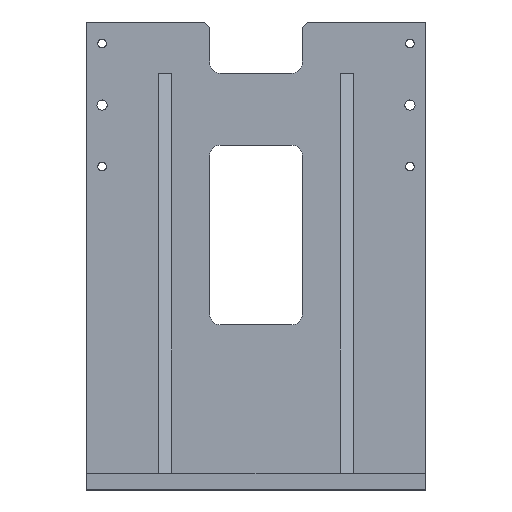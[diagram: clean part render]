
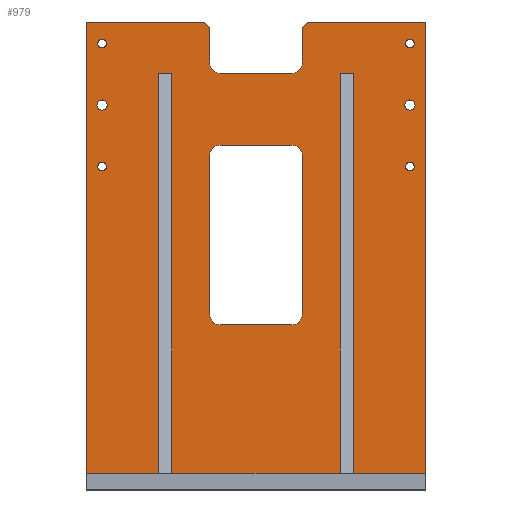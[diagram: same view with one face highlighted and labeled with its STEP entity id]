
A CAD part, top view. The second image highlights one B-rep face of the part: STEP entity #979.
In plain terms, the highlighted planar face has unit normal (0, 0, 1).
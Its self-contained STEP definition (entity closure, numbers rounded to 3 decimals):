
#19=FACE_BOUND($,#149,.T.);
#20=FACE_BOUND($,#150,.T.);
#21=FACE_BOUND($,#151,.T.);
#22=FACE_BOUND($,#152,.T.);
#23=FACE_BOUND($,#153,.T.);
#24=FACE_BOUND($,#154,.T.);
#25=FACE_BOUND($,#155,.T.);
#26=FACE_BOUND($,#156,.T.);
#65=PLANE($,#1047);
#149=EDGE_LOOP($,(#739,#740,#741,#742,#743,#744,#745,#746));
#150=EDGE_LOOP($,(#747,#748,#749,#750,#751,#752,#753,#754,#755,#756,#757,
#758,#759,#760,#761,#762,#763,#764,#765,#766));
#151=EDGE_LOOP($,(#767));
#152=EDGE_LOOP($,(#768));
#153=EDGE_LOOP($,(#769));
#154=EDGE_LOOP($,(#770));
#155=EDGE_LOOP($,(#771));
#156=EDGE_LOOP($,(#772));
#215=LINE($,#1371,#305);
#218=LINE($,#1382,#308);
#223=LINE($,#1395,#313);
#225=LINE($,#1403,#315);
#244=LINE($,#1458,#334);
#248=LINE($,#1464,#338);
#250=LINE($,#1469,#340);
#252=LINE($,#1473,#342);
#256=LINE($,#1484,#346);
#257=LINE($,#1487,#347);
#258=LINE($,#1489,#348);
#259=LINE($,#1491,#349);
#260=LINE($,#1493,#350);
#261=LINE($,#1495,#351);
#262=LINE($,#1497,#352);
#263=LINE($,#1499,#353);
#264=LINE($,#1501,#354);
#265=LINE($,#1503,#355);
#266=LINE($,#1505,#356);
#267=LINE($,#1507,#357);
#268=LINE($,#1509,#358);
#269=LINE($,#1510,#359);
#305=VECTOR($,#1110,155.);
#308=VECTOR($,#1121,70.);
#313=VECTOR($,#1134,70.);
#315=VECTOR($,#1144,155.);
#334=VECTOR($,#1187,7.071);
#338=VECTOR($,#1193,35.);
#340=VECTOR($,#1197,7.071);
#342=VECTOR($,#1201,35.);
#346=VECTOR($,#1215,70.);
#347=VECTOR($,#1218,115.);
#348=VECTOR($,#1219,440.);
#349=VECTOR($,#1220,70.);
#350=VECTOR($,#1221,390.);
#351=VECTOR($,#1222,12.7);
#352=VECTOR($,#1223,390.);
#353=VECTOR($,#1224,164.6);
#354=VECTOR($,#1225,390.);
#355=VECTOR($,#1226,12.7);
#356=VECTOR($,#1227,390.);
#357=VECTOR($,#1228,70.);
#358=VECTOR($,#1229,440.);
#359=VECTOR($,#1230,115.);
#390=CIRCLE($,#1013,10.);
#392=CIRCLE($,#1017,10.);
#394=CIRCLE($,#1021,10.);
#396=CIRCLE($,#1025,10.);
#405=CIRCLE($,#1043,10.);
#406=CIRCLE($,#1045,10.);
#407=CIRCLE($,#1048,5.);
#408=CIRCLE($,#1049,5.);
#409=CIRCLE($,#1050,4.188);
#410=CIRCLE($,#1051,4.188);
#411=CIRCLE($,#1052,4.188);
#412=CIRCLE($,#1053,4.188);
#427=VERTEX_POINT($,#1357);
#428=VERTEX_POINT($,#1359);
#432=VERTEX_POINT($,#1369);
#435=VERTEX_POINT($,#1376);
#436=VERTEX_POINT($,#1378);
#438=VERTEX_POINT($,#1387);
#440=VERTEX_POINT($,#1393);
#442=VERTEX_POINT($,#1399);
#465=VERTEX_POINT($,#1456);
#466=VERTEX_POINT($,#1457);
#467=VERTEX_POINT($,#1462);
#468=VERTEX_POINT($,#1466);
#469=VERTEX_POINT($,#1468);
#470=VERTEX_POINT($,#1472);
#471=VERTEX_POINT($,#1476);
#472=VERTEX_POINT($,#1480);
#473=VERTEX_POINT($,#1486);
#474=VERTEX_POINT($,#1488);
#475=VERTEX_POINT($,#1490);
#476=VERTEX_POINT($,#1492);
#477=VERTEX_POINT($,#1494);
#478=VERTEX_POINT($,#1496);
#479=VERTEX_POINT($,#1498);
#480=VERTEX_POINT($,#1500);
#481=VERTEX_POINT($,#1502);
#482=VERTEX_POINT($,#1504);
#483=VERTEX_POINT($,#1506);
#484=VERTEX_POINT($,#1508);
#485=VERTEX_POINT($,#1511);
#486=VERTEX_POINT($,#1513);
#487=VERTEX_POINT($,#1515);
#488=VERTEX_POINT($,#1517);
#489=VERTEX_POINT($,#1519);
#490=VERTEX_POINT($,#1521);
#519=EDGE_CURVE($,#427,#428,#390,.T.);
#525=EDGE_CURVE($,#427,#432,#215,.T.);
#528=EDGE_CURVE($,#435,#436,#392,.T.);
#530=EDGE_CURVE($,#435,#428,#218,.T.);
#534=EDGE_CURVE($,#438,#432,#394,.T.);
#537=EDGE_CURVE($,#438,#440,#223,.T.);
#540=EDGE_CURVE($,#442,#440,#396,.T.);
#541=EDGE_CURVE($,#442,#436,#225,.T.);
#568=EDGE_CURVE($,#465,#466,#244,.T.);
#572=EDGE_CURVE($,#465,#467,#248,.T.);
#574=EDGE_CURVE($,#468,#469,#250,.T.);
#576=EDGE_CURVE($,#470,#469,#252,.T.);
#578=EDGE_CURVE($,#471,#467,#405,.T.);
#580=EDGE_CURVE($,#470,#472,#406,.T.);
#582=EDGE_CURVE($,#471,#472,#256,.T.);
#583=EDGE_CURVE($,#468,#473,#257,.T.);
#584=EDGE_CURVE($,#473,#474,#258,.T.);
#585=EDGE_CURVE($,#474,#475,#259,.T.);
#586=EDGE_CURVE($,#475,#476,#260,.T.);
#587=EDGE_CURVE($,#476,#477,#261,.T.);
#588=EDGE_CURVE($,#477,#478,#262,.T.);
#589=EDGE_CURVE($,#478,#479,#263,.T.);
#590=EDGE_CURVE($,#479,#480,#264,.T.);
#591=EDGE_CURVE($,#480,#481,#265,.T.);
#592=EDGE_CURVE($,#481,#482,#266,.T.);
#593=EDGE_CURVE($,#482,#483,#267,.T.);
#594=EDGE_CURVE($,#483,#484,#268,.T.);
#595=EDGE_CURVE($,#484,#466,#269,.T.);
#596=EDGE_CURVE($,#485,#485,#407,.T.);
#597=EDGE_CURVE($,#486,#486,#408,.T.);
#598=EDGE_CURVE($,#487,#487,#409,.T.);
#599=EDGE_CURVE($,#488,#488,#410,.T.);
#600=EDGE_CURVE($,#489,#489,#411,.T.);
#601=EDGE_CURVE($,#490,#490,#412,.T.);
#739=ORIENTED_EDGE($,*,*,#525,.T.);
#740=ORIENTED_EDGE($,*,*,#534,.F.);
#741=ORIENTED_EDGE($,*,*,#537,.T.);
#742=ORIENTED_EDGE($,*,*,#540,.F.);
#743=ORIENTED_EDGE($,*,*,#541,.T.);
#744=ORIENTED_EDGE($,*,*,#528,.F.);
#745=ORIENTED_EDGE($,*,*,#530,.T.);
#746=ORIENTED_EDGE($,*,*,#519,.F.);
#747=ORIENTED_EDGE($,*,*,#568,.F.);
#748=ORIENTED_EDGE($,*,*,#572,.T.);
#749=ORIENTED_EDGE($,*,*,#578,.F.);
#750=ORIENTED_EDGE($,*,*,#582,.T.);
#751=ORIENTED_EDGE($,*,*,#580,.F.);
#752=ORIENTED_EDGE($,*,*,#576,.T.);
#753=ORIENTED_EDGE($,*,*,#574,.F.);
#754=ORIENTED_EDGE($,*,*,#583,.T.);
#755=ORIENTED_EDGE($,*,*,#584,.T.);
#756=ORIENTED_EDGE($,*,*,#585,.T.);
#757=ORIENTED_EDGE($,*,*,#586,.T.);
#758=ORIENTED_EDGE($,*,*,#587,.T.);
#759=ORIENTED_EDGE($,*,*,#588,.T.);
#760=ORIENTED_EDGE($,*,*,#589,.T.);
#761=ORIENTED_EDGE($,*,*,#590,.T.);
#762=ORIENTED_EDGE($,*,*,#591,.T.);
#763=ORIENTED_EDGE($,*,*,#592,.T.);
#764=ORIENTED_EDGE($,*,*,#593,.T.);
#765=ORIENTED_EDGE($,*,*,#594,.T.);
#766=ORIENTED_EDGE($,*,*,#595,.T.);
#767=ORIENTED_EDGE($,*,*,#596,.T.);
#768=ORIENTED_EDGE($,*,*,#597,.T.);
#769=ORIENTED_EDGE($,*,*,#598,.T.);
#770=ORIENTED_EDGE($,*,*,#599,.T.);
#771=ORIENTED_EDGE($,*,*,#600,.T.);
#772=ORIENTED_EDGE($,*,*,#601,.T.);
#979=ADVANCED_FACE($,(#19,#20,#21,#22,#23,#24,#25,#26),#65,.T.);
#1013=AXIS2_PLACEMENT_3D($,#1360,#1101,#1102);
#1017=AXIS2_PLACEMENT_3D($,#1379,#1116,#1117);
#1021=AXIS2_PLACEMENT_3D($,#1389,#1128,#1129);
#1025=AXIS2_PLACEMENT_3D($,#1401,#1140,#1141);
#1043=AXIS2_PLACEMENT_3D($,#1477,#1205,#1206);
#1045=AXIS2_PLACEMENT_3D($,#1481,#1210,#1211);
#1047=AXIS2_PLACEMENT_3D($,#1485,#1216,#1217);
#1048=AXIS2_PLACEMENT_3D($,#1512,#1231,#1232);
#1049=AXIS2_PLACEMENT_3D($,#1514,#1233,#1234);
#1050=AXIS2_PLACEMENT_3D($,#1516,#1235,#1236);
#1051=AXIS2_PLACEMENT_3D($,#1518,#1237,#1238);
#1052=AXIS2_PLACEMENT_3D($,#1520,#1239,#1240);
#1053=AXIS2_PLACEMENT_3D($,#1522,#1241,#1242);
#1101=DIRECTION('center_axis',(0.,0.,1.));
#1102=DIRECTION('ref_axis',(-0.707,-0.707,0.));
#1110=DIRECTION($,(0.,1.,0.));
#1116=DIRECTION('center_axis',(0.,0.,1.));
#1117=DIRECTION('ref_axis',(0.707,-0.707,0.));
#1121=DIRECTION($,(-1.,0.,0.));
#1128=DIRECTION('center_axis',(0.,0.,1.));
#1129=DIRECTION('ref_axis',(-0.707,0.707,0.));
#1134=DIRECTION($,(1.,0.,0.));
#1140=DIRECTION('center_axis',(0.,0.,1.));
#1141=DIRECTION('ref_axis',(0.707,0.707,0.));
#1144=DIRECTION($,(0.,-1.,0.));
#1187=DIRECTION($,(0.707,0.707,0.));
#1193=DIRECTION($,(0.,-1.,0.));
#1197=DIRECTION($,(0.707,-0.707,0.));
#1201=DIRECTION($,(0.,1.,0.));
#1205=DIRECTION('center_axis',(0.,0.,1.));
#1206=DIRECTION('ref_axis',(0.707,-0.707,0.));
#1210=DIRECTION('center_axis',(0.,0.,1.));
#1211=DIRECTION('ref_axis',(-0.707,-0.707,0.));
#1215=DIRECTION($,(-1.,0.,0.));
#1216=DIRECTION('center_axis',(0.,0.,1.));
#1217=DIRECTION('ref_axis',(1.,0.,0.));
#1218=DIRECTION($,(-1.,0.,0.));
#1219=DIRECTION($,(0.,-1.,0.));
#1220=DIRECTION($,(1.,0.,0.));
#1221=DIRECTION($,(0.,1.,0.));
#1222=DIRECTION($,(1.,0.,0.));
#1223=DIRECTION($,(0.,-1.,0.));
#1224=DIRECTION($,(1.,0.,0.));
#1225=DIRECTION($,(0.,1.,0.));
#1226=DIRECTION($,(1.,0.,0.));
#1227=DIRECTION($,(0.,-1.,0.));
#1228=DIRECTION($,(1.,0.,0.));
#1229=DIRECTION($,(0.,1.,0.));
#1230=DIRECTION($,(-1.,0.,0.));
#1231=DIRECTION('center_axis',(0.,0.,-1.));
#1232=DIRECTION('ref_axis',(-1.,0.,0.));
#1233=DIRECTION('center_axis',(0.,0.,-1.));
#1234=DIRECTION('ref_axis',(-1.,0.,0.));
#1235=DIRECTION('center_axis',(0.,0.,-1.));
#1236=DIRECTION('ref_axis',(-1.,0.,0.));
#1237=DIRECTION('center_axis',(0.,0.,-1.));
#1238=DIRECTION('ref_axis',(-1.,0.,0.));
#1239=DIRECTION('center_axis',(0.,0.,-1.));
#1240=DIRECTION('ref_axis',(-1.,0.,0.));
#1241=DIRECTION('center_axis',(0.,0.,-1.));
#1242=DIRECTION('ref_axis',(-1.,0.,0.));
#1357=CARTESIAN_POINT('',(-45.,-65.,19.05));
#1359=CARTESIAN_POINT('',(-35.,-75.,19.05));
#1360=CARTESIAN_POINT('Origin',(-35.,-65.,19.05));
#1369=CARTESIAN_POINT('',(-45.,90.,19.05));
#1371=CARTESIAN_POINT($,(-45.,50.,19.05));
#1376=CARTESIAN_POINT('',(35.,-75.,19.05));
#1378=CARTESIAN_POINT('',(45.,-65.,19.05));
#1379=CARTESIAN_POINT('Origin',(35.,-65.,19.05));
#1382=CARTESIAN_POINT($,(-22.5,-75.,19.05));
#1387=CARTESIAN_POINT('',(-35.,100.,19.05));
#1389=CARTESIAN_POINT('Origin',(-35.,90.,19.05));
#1393=CARTESIAN_POINT('',(35.,100.,19.05));
#1395=CARTESIAN_POINT($,(22.5,100.,19.05));
#1399=CARTESIAN_POINT('',(45.,90.,19.05));
#1401=CARTESIAN_POINT('Origin',(35.,90.,19.05));
#1403=CARTESIAN_POINT($,(45.,-37.5,19.05));
#1456=CARTESIAN_POINT('',(45.,215.,19.05));
#1457=CARTESIAN_POINT('',(50.,220.,19.05));
#1458=CARTESIAN_POINT($,(-18.75,151.25,19.05));
#1462=CARTESIAN_POINT('',(45.,180.,19.05));
#1464=CARTESIAN_POINT($,(45.,110.,19.05));
#1466=CARTESIAN_POINT('',(-50.,220.,19.05));
#1468=CARTESIAN_POINT('',(-45.,215.,19.05));
#1469=CARTESIAN_POINT($,(18.75,151.25,19.05));
#1472=CARTESIAN_POINT('',(-45.,180.,19.05));
#1473=CARTESIAN_POINT($,(-45.,85.,19.05));
#1476=CARTESIAN_POINT('',(35.,170.,19.05));
#1477=CARTESIAN_POINT('Origin',(35.,180.,19.05));
#1480=CARTESIAN_POINT('',(-35.,170.,19.05));
#1481=CARTESIAN_POINT('Origin',(-35.,180.,19.05));
#1484=CARTESIAN_POINT($,(22.5,170.,19.05));
#1485=CARTESIAN_POINT('Origin',(0.,0.,
19.05));
#1486=CARTESIAN_POINT('',(-165.,220.,19.05));
#1487=CARTESIAN_POINT($,(-165.,220.,19.05));
#1488=CARTESIAN_POINT('',(-165.,-220.,19.05));
#1489=CARTESIAN_POINT($,(-165.,-220.,19.05));
#1490=CARTESIAN_POINT('',(-95.,-220.,19.05));
#1491=CARTESIAN_POINT($,(165.,-220.,19.05));
#1492=CARTESIAN_POINT('',(-95.,170.,19.05));
#1493=CARTESIAN_POINT($,(-95.,-25.855,19.05));
#1494=CARTESIAN_POINT('',(-82.3,170.,19.05));
#1495=CARTESIAN_POINT($,(-47.5,170.,19.05));
#1496=CARTESIAN_POINT('',(-82.3,-220.,19.05));
#1497=CARTESIAN_POINT($,(-82.3,-25.855,19.05));
#1498=CARTESIAN_POINT('',(82.3,-220.,19.05));
#1499=CARTESIAN_POINT($,(165.,-220.,19.05));
#1500=CARTESIAN_POINT('',(82.3,170.,19.05));
#1501=CARTESIAN_POINT($,(82.3,-25.855,19.05));
#1502=CARTESIAN_POINT('',(95.,170.,19.05));
#1503=CARTESIAN_POINT($,(47.5,170.,19.05));
#1504=CARTESIAN_POINT('',(95.,-220.,19.05));
#1505=CARTESIAN_POINT($,(95.,-25.855,19.05));
#1506=CARTESIAN_POINT('',(165.,-220.,19.05));
#1507=CARTESIAN_POINT($,(165.,-220.,19.05));
#1508=CARTESIAN_POINT('',(165.,220.,19.05));
#1509=CARTESIAN_POINT($,(165.,220.,19.05));
#1510=CARTESIAN_POINT($,(-165.,220.,19.05));
#1511=CARTESIAN_POINT('',(-145.,139.,19.05));
#1512=CARTESIAN_POINT('Origin',(-150.,139.,19.05));
#1513=CARTESIAN_POINT('',(155.,139.,19.05));
#1514=CARTESIAN_POINT('Origin',(150.,139.,19.05));
#1515=CARTESIAN_POINT('',(-145.812,79.,19.05));
#1516=CARTESIAN_POINT('Origin',(-150.,79.,19.05));
#1517=CARTESIAN_POINT('',(154.188,199.,19.05));
#1518=CARTESIAN_POINT('Origin',(150.,199.,19.05));
#1519=CARTESIAN_POINT('',(154.188,79.,19.05));
#1520=CARTESIAN_POINT('Origin',(150.,79.,19.05));
#1521=CARTESIAN_POINT('',(-145.812,199.,19.05));
#1522=CARTESIAN_POINT('Origin',(-150.,199.,19.05));
